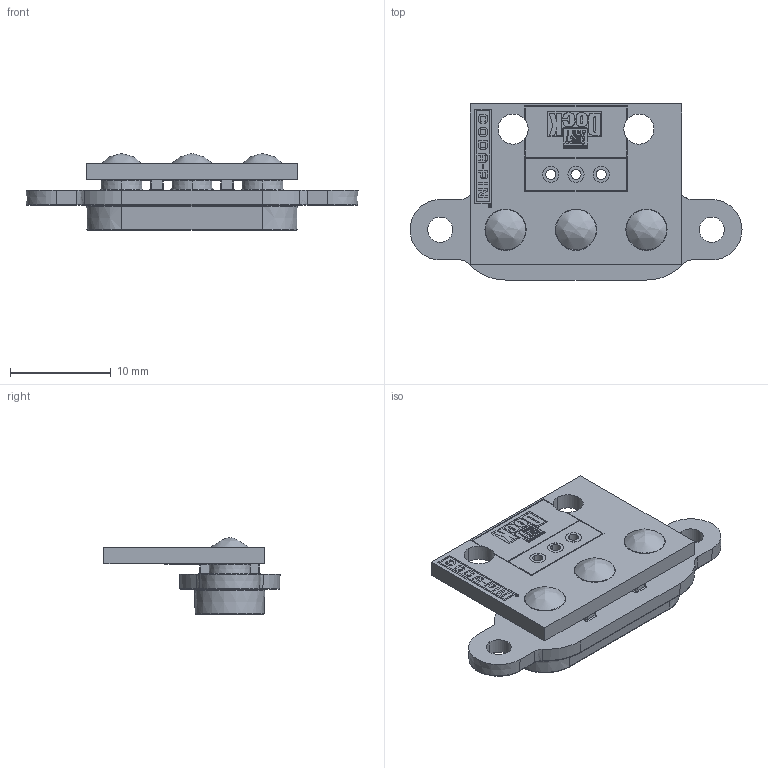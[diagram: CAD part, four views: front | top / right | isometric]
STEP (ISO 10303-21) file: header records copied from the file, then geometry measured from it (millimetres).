
FILE_DESCRIPTION (( 'STEP AP214' ), '1' );
FILE_NAME ('Swift-Dock-3P-L.STEP', '2021-08-06T12:10:51', ( '' ), ( '' ), 'SwSTEP 2.0', 'SolidWorks 2021', '' );
FILE_SCHEMA (( 'AUTOMOTIVE_DESIGN' ));
Length unit declared in the file: millimetre
Products named in the file (7): solder spill_6; PCB_3 way_assy; Swift-Dock-3P-L; PCB_3 way_2; land body_3 hole_2; SD3L_SD3L_PCB; Coda_IPP2S-A_contact land_5
Assembly tree (10 placements, depth 4):
  Swift-Dock-3P-L
    SD3L_SD3L_PCB
      land body_3 hole_2
      Coda_IPP2S-A_contact land_5  x3
      PCB_3 way_assy
        PCB_3 way_2
      solder spill_6  x3
Bounding box: 33 x 17.5 x 7.61 mm (x, y, z)
Volume: 1287.6 mm3; surface area: 2056.8 mm2
Topology: 8 solids, 8 shells, 572 faces, 1400 edges, 899 vertices
Faces by surface type: plane 288, cylinder 144, bspline 72, cone 68
Entity records: 23005 total; most frequent: CARTESIAN_POINT 4774, ORIENTED_EDGE 2596, DIRECTION 2424, EDGE_CURVE 1298, LINE 842, VECTOR 842, VERTEX_POINT 841, AXIS2_PLACEMENT_3D 791
